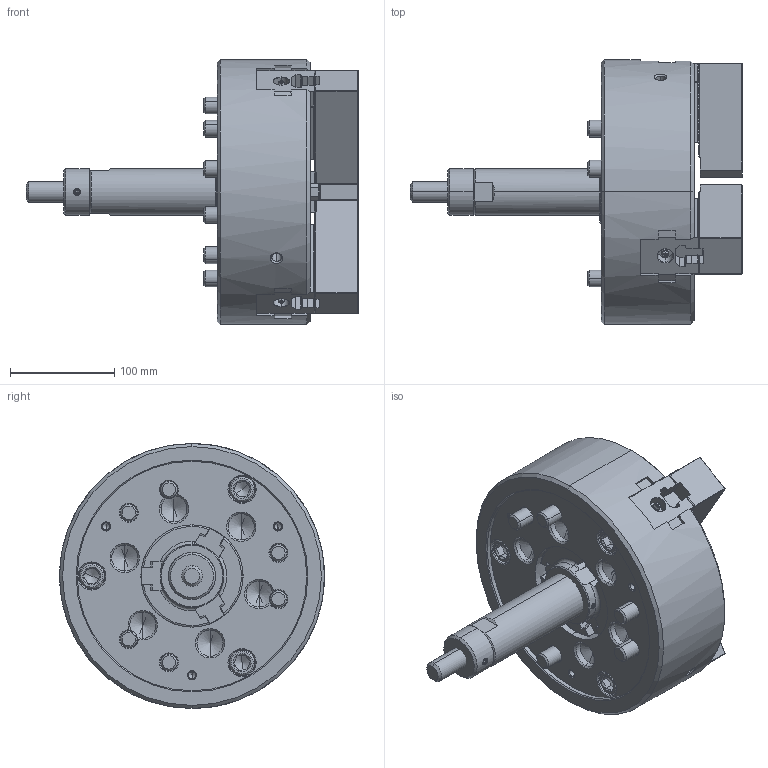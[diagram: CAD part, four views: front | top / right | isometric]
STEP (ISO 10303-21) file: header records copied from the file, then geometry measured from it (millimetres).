
FILE_DESCRIPTION (( 'STEP AP214' ), '1' );
FILE_NAME ('DT1_N-10_OUTSIDE_VIEW_HOL.STEP', '2026-03-16T00:25:53', ( '' ), ( '' ), 'SwSTEP 2.0', 'SolidWorks 2022', '' );
FILE_SCHEMA (( 'AUTOMOTIVE_DESIGN' ));
Length unit declared in the file: millimetre
Products named in the file (11): DT1_N-10_M12x35^DT1_N-10; DT1_N-10_SOFTJAW^DT1_N-10; Copy of 61P310584^DT1_N-10; DT1_N-10_BASE^DT1_N-10; DT1_N-10_TNUT^DT1_N-10; DT1_N-10_DRAWSCREW^DT1_N-10; DT1_N-10_M16x85^DT1_N-10; DT1_N-10_COVER^DT1_N-10; DT1_N-10_M5x12^DT1_N-10; DT1_N-10_DN^DT1_N-10; DT1_N-10_OUTSIDE_VIEW_HOL
Assembly tree (26 placements, depth 2):
  DT1_N-10_OUTSIDE_VIEW_HOL
    DT1_N-10_SOFTJAW^DT1_N-10  x3
    DT1_N-10_TNUT^DT1_N-10  x3
    DT1_N-10_COVER^DT1_N-10
    DT1_N-10_DRAWSCREW^DT1_N-10
    Copy of 61P310584^DT1_N-10
    DT1_N-10_DN^DT1_N-10
    DT1_N-10_BASE^DT1_N-10
    DT1_N-10_M5x12^DT1_N-10  x3
    DT1_N-10_M12x35^DT1_N-10  x6
    DT1_N-10_M16x85^DT1_N-10  x6
Bounding box: 318.19 x 254 x 254 mm (x, y, z)
Volume: 4786990.3 mm3; surface area: 510302.2 mm2
Topology: 26 solids, 26 shells, 4128 faces, 11633 edges, 7598 vertices
Faces by surface type: plane 2914, cylinder 619, cone 420, bspline 111, torus 58, sphere 6
Entity records: 104369 total; most frequent: CARTESIAN_POINT 28843, ORIENTED_EDGE 16890, DIRECTION 13769, EDGE_CURVE 8445, VECTOR 6207, LINE 6207, VERTEX_POINT 5542, AXIS2_PLACEMENT_3D 3781
